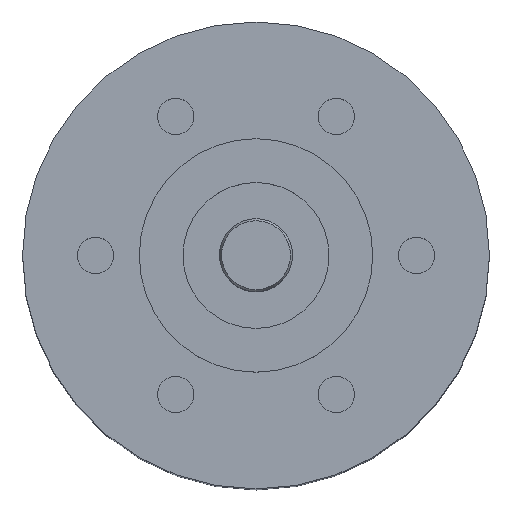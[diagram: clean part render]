
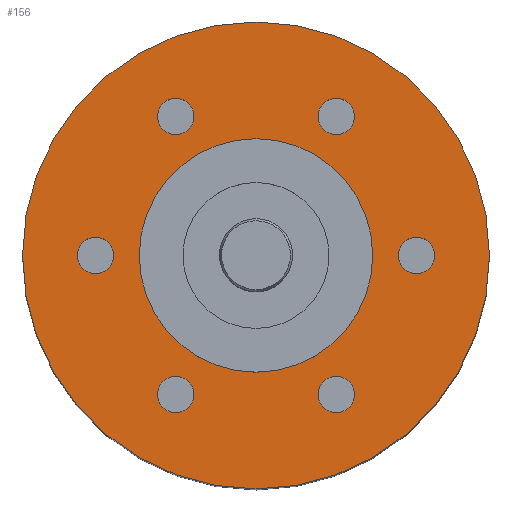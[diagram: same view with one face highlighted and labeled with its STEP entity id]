
A CAD part, top view. The second image highlights one B-rep face of the part: STEP entity #156.
In plain terms, the highlighted planar face has unit normal (0, 0, 1).
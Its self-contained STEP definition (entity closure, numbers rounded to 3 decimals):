
#132=PLANE('',#734);
#156=ADVANCED_FACE('',(#233,#234,#235,#236,#237,#238,#239,#240),#132,.T.);
#233=FACE_BOUND('',#286,.T.);
#234=FACE_BOUND('',#287,.T.);
#235=FACE_BOUND('',#288,.T.);
#236=FACE_BOUND('',#289,.T.);
#237=FACE_BOUND('',#290,.T.);
#238=FACE_BOUND('',#291,.T.);
#239=FACE_BOUND('',#292,.T.);
#240=FACE_BOUND('',#293,.T.);
#286=EDGE_LOOP('',(#368));
#287=EDGE_LOOP('',(#369));
#288=EDGE_LOOP('',(#370));
#289=EDGE_LOOP('',(#371));
#290=EDGE_LOOP('',(#372));
#291=EDGE_LOOP('',(#373));
#292=EDGE_LOOP('',(#374));
#293=EDGE_LOOP('',(#375));
#368=ORIENTED_EDGE('',*,*,#591,.T.);
#369=ORIENTED_EDGE('',*,*,#592,.T.);
#370=ORIENTED_EDGE('',*,*,#593,.T.);
#371=ORIENTED_EDGE('',*,*,#594,.T.);
#372=ORIENTED_EDGE('',*,*,#595,.T.);
#373=ORIENTED_EDGE('',*,*,#596,.T.);
#374=ORIENTED_EDGE('',*,*,#597,.F.);
#375=ORIENTED_EDGE('',*,*,#589,.F.);
#528=VERTEX_POINT('',#1071);
#530=VERTEX_POINT('',#1076);
#531=VERTEX_POINT('',#1078);
#532=VERTEX_POINT('',#1080);
#533=VERTEX_POINT('',#1082);
#534=VERTEX_POINT('',#1084);
#535=VERTEX_POINT('',#1086);
#536=VERTEX_POINT('',#1088);
#589=EDGE_CURVE('',#528,#528,#670,.T.);
#591=EDGE_CURVE('',#530,#530,#672,.T.);
#592=EDGE_CURVE('',#531,#531,#673,.T.);
#593=EDGE_CURVE('',#532,#532,#674,.T.);
#594=EDGE_CURVE('',#533,#533,#675,.T.);
#595=EDGE_CURVE('',#534,#534,#676,.T.);
#596=EDGE_CURVE('',#535,#535,#677,.T.);
#597=EDGE_CURVE('',#536,#536,#678,.T.);
#670=CIRCLE('',#724,16.);
#672=CIRCLE('',#727,1.25);
#673=CIRCLE('',#728,1.25);
#674=CIRCLE('',#729,1.25);
#675=CIRCLE('',#730,1.25);
#676=CIRCLE('',#731,1.25);
#677=CIRCLE('',#732,1.25);
#678=CIRCLE('',#733,8.);
#724=AXIS2_PLACEMENT_3D('',#1070,#831,#832);
#727=AXIS2_PLACEMENT_3D('',#1075,#837,#838);
#728=AXIS2_PLACEMENT_3D('',#1077,#839,#840);
#729=AXIS2_PLACEMENT_3D('',#1079,#841,#842);
#730=AXIS2_PLACEMENT_3D('',#1081,#843,#844);
#731=AXIS2_PLACEMENT_3D('',#1083,#845,#846);
#732=AXIS2_PLACEMENT_3D('',#1085,#847,#848);
#733=AXIS2_PLACEMENT_3D('',#1087,#849,#850);
#734=AXIS2_PLACEMENT_3D('',#1089,#851,#852);
#831=DIRECTION('',(0.,0.,-1.));
#832=DIRECTION('',(-0.866,-0.5,0.));
#837=DIRECTION('',(0.,0.,-1.));
#838=DIRECTION('',(-0.866,0.5,0.));
#839=DIRECTION('',(0.,0.,-1.));
#840=DIRECTION('',(0.,1.,0.));
#841=DIRECTION('',(0.,0.,-1.));
#842=DIRECTION('',(0.866,0.5,0.));
#843=DIRECTION('',(0.,0.,-1.));
#844=DIRECTION('',(0.866,-0.5,0.));
#845=DIRECTION('',(0.,0.,-1.));
#846=DIRECTION('',(0.,-1.,0.));
#847=DIRECTION('',(0.,0.,-1.));
#848=DIRECTION('',(-0.866,-0.5,0.));
#849=DIRECTION('',(0.,0.,1.));
#850=DIRECTION('',(0.866,0.5,0.));
#851=DIRECTION('',(0.,0.,1.));
#852=DIRECTION('',(0.866,0.5,0.));
#1070=CARTESIAN_POINT('',(0.,0.,0.));
#1071=CARTESIAN_POINT('',(-13.856,-8.,0.));
#1075=CARTESIAN_POINT('',(5.5,9.526,0.));
#1076=CARTESIAN_POINT('',(4.417,10.151,0.));
#1077=CARTESIAN_POINT('',(11.,0.,0.));
#1078=CARTESIAN_POINT('',(11.,1.25,0.));
#1079=CARTESIAN_POINT('',(5.5,-9.526,0.));
#1080=CARTESIAN_POINT('',(6.583,-8.901,0.));
#1081=CARTESIAN_POINT('',(-5.5,-9.526,0.));
#1082=CARTESIAN_POINT('',(-4.417,-10.151,0.));
#1083=CARTESIAN_POINT('',(-11.,0.,0.));
#1084=CARTESIAN_POINT('',(-11.,-1.25,0.));
#1085=CARTESIAN_POINT('',(-5.5,9.526,0.));
#1086=CARTESIAN_POINT('',(-6.583,8.901,0.));
#1087=CARTESIAN_POINT('',(0.,0.,0.));
#1088=CARTESIAN_POINT('',(6.928,4.,0.));
#1089=CARTESIAN_POINT('',(0.,0.,0.));
